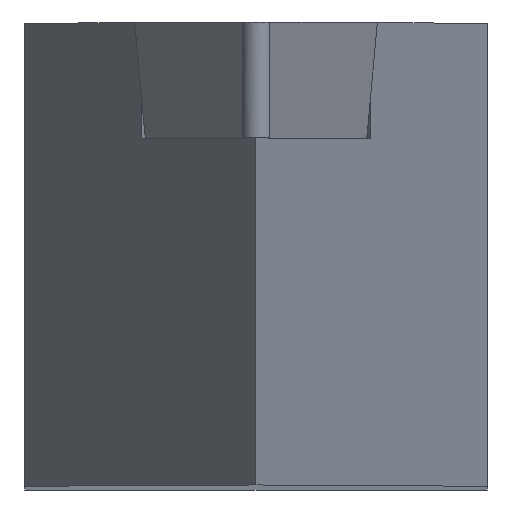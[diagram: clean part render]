
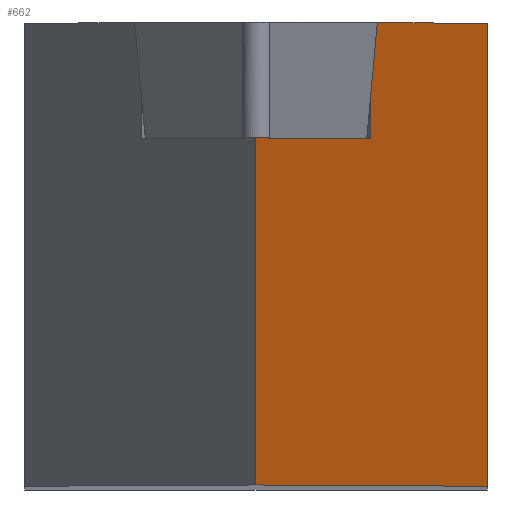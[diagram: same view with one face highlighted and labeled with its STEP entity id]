
A CAD part, top view. The second image highlights one B-rep face of the part: STEP entity #662.
In plain terms, the highlighted planar face has unit normal (0.954, 0, 0.301).
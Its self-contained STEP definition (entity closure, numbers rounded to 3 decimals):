
#3 = LINE ( 'NONE', #923, #789 ) ;
#9 = VERTEX_POINT ( 'NONE', #780 ) ;
#32 = EDGE_CURVE ( 'NONE', #368, #285, #980, .T. ) ;
#50 = DIRECTION ( 'NONE',  ( -0.301, 0., 0.954 ) ) ;
#77 = EDGE_CURVE ( 'NONE', #308, #313, #3, .T. ) ;
#118 = PLANE ( 'NONE',  #267 ) ;
#162 = VECTOR ( 'NONE', #686, 1000. ) ;
#217 = ORIENTED_EDGE ( 'NONE', *, *, #245, .T. ) ;
#232 = EDGE_CURVE ( 'NONE', #285, #308, #239, .T. ) ;
#239 = LINE ( 'NONE', #384, #762 ) ;
#245 = EDGE_CURVE ( 'NONE', #9, #482, #977, .T. ) ;
#247 = CARTESIAN_POINT ( 'NONE',  ( 0., -6.35, -0.234 ) ) ;
#251 = DIRECTION ( 'NONE',  ( -0.301, 0., 0.954 ) ) ;
#267 = AXIS2_PLACEMENT_3D ( 'NONE', #876, #960, #50 ) ;
#285 = VERTEX_POINT ( 'NONE', #912 ) ;
#308 = VERTEX_POINT ( 'NONE', #321 ) ;
#313 = VERTEX_POINT ( 'NONE', #463 ) ;
#321 = CARTESIAN_POINT ( 'NONE',  ( 3.147, 3.17, -10.215 ) ) ;
#329 = FACE_OUTER_BOUND ( 'NONE', #859, .T. ) ;
#332 = ORIENTED_EDGE ( 'NONE', *, *, #77, .F. ) ;
#335 = VECTOR ( 'NONE', #830, 1000. ) ;
#368 = VERTEX_POINT ( 'NONE', #247 ) ;
#372 = ORIENTED_EDGE ( 'NONE', *, *, #232, .F. ) ;
#384 = CARTESIAN_POINT ( 'NONE',  ( -0.041, 3.17, -0.104 ) ) ;
#387 = DIRECTION ( 'NONE',  ( 0., 1., 0. ) ) ;
#398 = CARTESIAN_POINT ( 'NONE',  ( 0., -6.35, -0.234 ) ) ;
#403 = EDGE_CURVE ( 'NONE', #9, #368, #899, .T. ) ;
#433 = EDGE_CURVE ( 'NONE', #482, #313, #636, .T. ) ;
#447 = CARTESIAN_POINT ( 'NONE',  ( 6.35, 6.35, -20.374 ) ) ;
#463 = CARTESIAN_POINT ( 'NONE',  ( 3.147, 6.35, -10.215 ) ) ;
#482 = VERTEX_POINT ( 'NONE', #643 ) ;
#519 = ORIENTED_EDGE ( 'NONE', *, *, #433, .T. ) ;
#636 = LINE ( 'NONE', #693, #679 ) ;
#643 = CARTESIAN_POINT ( 'NONE',  ( 6.35, 6.35, -20.374 ) ) ;
#662 = ADVANCED_FACE ( 'NONE', ( #329 ), #118, .F. ) ;
#679 = VECTOR ( 'NONE', #779, 1000. ) ;
#680 = DIRECTION ( 'NONE',  ( 0.301, 0., -0.954 ) ) ;
#686 = DIRECTION ( 'NONE',  ( 0., 1., 0. ) ) ;
#693 = CARTESIAN_POINT ( 'NONE',  ( 0., 6.35, -0.234 ) ) ;
#745 = CARTESIAN_POINT ( 'NONE',  ( 0., -6.35, -0.234 ) ) ;
#762 = VECTOR ( 'NONE', #680, 1000. ) ;
#779 = DIRECTION ( 'NONE',  ( -0.301, 0., 0.954 ) ) ;
#780 = CARTESIAN_POINT ( 'NONE',  ( 6.35, -6.35, -20.374 ) ) ;
#789 = VECTOR ( 'NONE', #387, 1000. ) ;
#818 = ORIENTED_EDGE ( 'NONE', *, *, #32, .F. ) ;
#830 = DIRECTION ( 'NONE',  ( 0., 1., 0. ) ) ;
#859 = EDGE_LOOP ( 'NONE', ( #217, #519, #332, #372, #818, #936 ) ) ;
#876 = CARTESIAN_POINT ( 'NONE',  ( 0., -6.35, -0.234 ) ) ;
#899 = LINE ( 'NONE', #398, #945 ) ;
#912 = CARTESIAN_POINT ( 'NONE',  ( 0., 3.17, -0.234 ) ) ;
#923 = CARTESIAN_POINT ( 'NONE',  ( 3.147, 4.67, -10.215 ) ) ;
#936 = ORIENTED_EDGE ( 'NONE', *, *, #403, .F. ) ;
#945 = VECTOR ( 'NONE', #251, 1000. ) ;
#960 = DIRECTION ( 'NONE',  ( -0.954, 0., -0.301 ) ) ;
#977 = LINE ( 'NONE', #447, #162 ) ;
#980 = LINE ( 'NONE', #745, #335 ) ;
